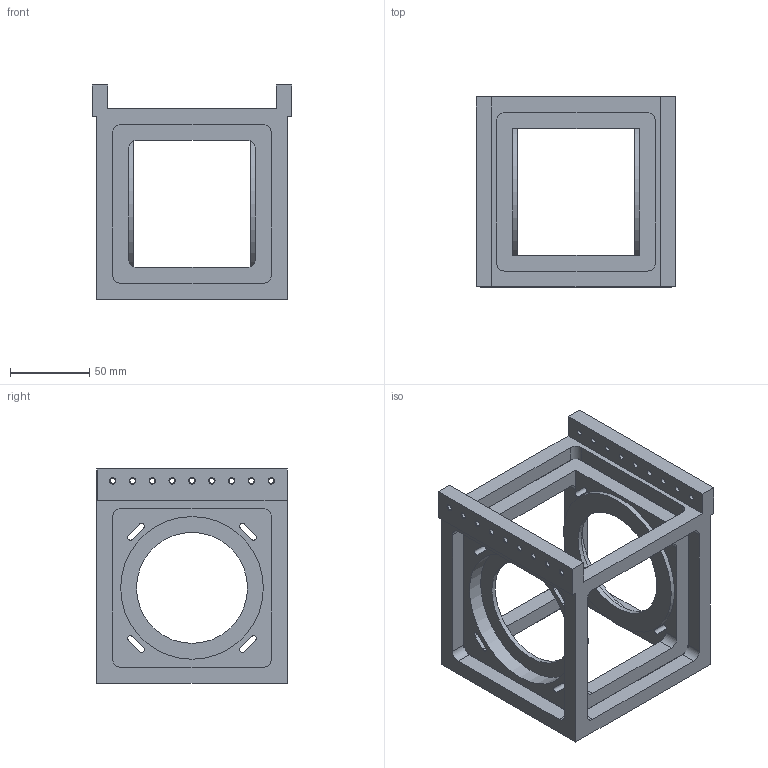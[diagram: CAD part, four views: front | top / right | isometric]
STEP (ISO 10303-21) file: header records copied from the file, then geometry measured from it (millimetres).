
FILE_DESCRIPTION (( 'STEP AP214' ), '1' );
FILE_NAME ('未成形的磁场线圈.STEP', '2026-10-17T03:36:32', ( '' ), ( '' ), 'SwSTEP 2.0', 'SolidWorks 2022', '' );
FILE_SCHEMA (( 'AUTOMOTIVE_DESIGN' ));
Length unit declared in the file: millimetre
Products named in the file (1): 未成形的磁场线圈
Bounding box: 126 x 120 x 135 mm (x, y, z)
Volume: 288952.4 mm3; surface area: 116466.6 mm2
Topology: 2 solids, 2 shells, 177 faces, 495 edges, 320 vertices
Faces by surface type: cylinder 76, plane 75, cone 26
Full cylindrical faces by diameter (mm): 3.3 x22, 70 x2, 90 x2, 96 x2
Entity records: 5622 total; most frequent: CARTESIAN_POINT 963, DIRECTION 899, ORIENTED_EDGE 834, EDGE_CURVE 417, AXIS2_PLACEMENT_3D 328, EDGE_LOOP 301, VERTEX_POINT 296, LINE 243
